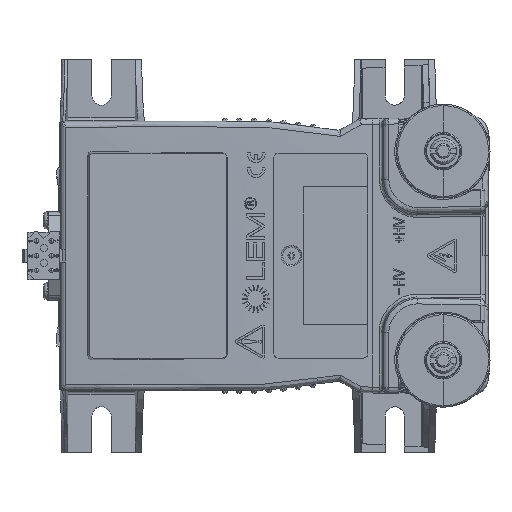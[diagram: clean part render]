
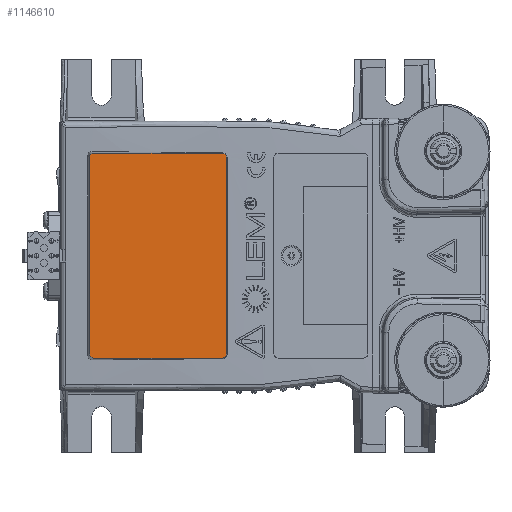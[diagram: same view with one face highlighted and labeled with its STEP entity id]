
A CAD part, top view. The second image highlights one B-rep face of the part: STEP entity #1146610.
In plain terms, the highlighted planar face has unit normal (0, 0, 1).
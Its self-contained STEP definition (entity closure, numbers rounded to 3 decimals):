
#1145860=CARTESIAN_POINT('',(-59.837,-65.738,
64.413));
#1145870=DIRECTION('',(0.,0.,1.));
#1145880=DIRECTION('',(-1.,0.,0.));
#1145890=AXIS2_PLACEMENT_3D('',#1145860,#1145870,#1145880);
#1145900=PLANE('',#1145890);
#1145910=CARTESIAN_POINT('',(38.354,-33.67,
64.413));
#1145920=DIRECTION('',(0.,0.,1.));
#1145930=DIRECTION('',(-0.707,0.707,
0.));
#1145940=AXIS2_PLACEMENT_3D('',#1145910,#1145920,#1145930);
#1145950=ELLIPSE('',#1145940,1.546,1.5);
#1145960=CARTESIAN_POINT('',(38.4,-35.193,
64.413));
#1145970=VERTEX_POINT('',#1145960);
#1145980=CARTESIAN_POINT('',(39.877,-33.716,
64.413));
#1145990=VERTEX_POINT('',#1145980);
#1146000=EDGE_CURVE('',#1145970,#1145990,#1145950,.T.);
#1146010=ORIENTED_EDGE('',*,*,#1146000,.T.);
#1146020=CARTESIAN_POINT('',(49.422,-35.193,
64.413));
#1146030=DIRECTION('',(-1.,0.,0.));
#1146040=VECTOR('',#1146030,1.);
#1146050=LINE('',#1146020,#1146040);
#1146060=CARTESIAN_POINT('',(-5.397,-35.193,
64.413));
#1146070=VERTEX_POINT('',#1146060);
#1146080=EDGE_CURVE('',#1145970,#1146070,#1146050,.T.);
#1146090=ORIENTED_EDGE('',*,*,#1146080,.F.);
#1146100=CARTESIAN_POINT('',(-5.352,-33.67,
64.413));
#1146110=DIRECTION('',(0.,0.,1.));
#1146120=DIRECTION('',(0.707,0.707,
0.));
#1146130=AXIS2_PLACEMENT_3D('',#1146100,#1146110,#1146120);
#1146140=ELLIPSE('',#1146130,1.546,1.5);
#1146150=CARTESIAN_POINT('',(-6.875,-33.716,
64.413));
#1146160=VERTEX_POINT('',#1146150);
#1146170=EDGE_CURVE('',#1146160,#1146070,#1146140,.T.);
#1146180=ORIENTED_EDGE('',*,*,#1146170,.T.);
#1146190=CARTESIAN_POINT('',(-6.875,7.697,
64.413));
#1146200=DIRECTION('',(0.,1.,0.));
#1146210=VECTOR('',#1146200,1.);
#1146220=LINE('',#1146190,#1146210);
#1146230=CARTESIAN_POINT('',(-6.875,33.221,64.413
));
#1146240=VERTEX_POINT('',#1146230);
#1146250=EDGE_CURVE('',#1146160,#1146240,#1146220,.T.);
#1146260=ORIENTED_EDGE('',*,*,#1146250,.F.);
#1146270=CARTESIAN_POINT('',(-5.352,33.175,
64.413));
#1146280=DIRECTION('',(0.,0.,1.));
#1146290=DIRECTION('',(-0.707,0.707,
0.));
#1146300=AXIS2_PLACEMENT_3D('',#1146270,#1146280,#1146290);
#1146310=ELLIPSE('',#1146300,1.546,1.5);
#1146320=CARTESIAN_POINT('',(-5.397,34.698,
64.413));
#1146330=VERTEX_POINT('',#1146320);
#1146340=EDGE_CURVE('',#1146330,#1146240,#1146310,.T.);
#1146350=ORIENTED_EDGE('',*,*,#1146340,.T.);
#1146360=CARTESIAN_POINT('',(49.422,34.698,64.413
));
#1146370=DIRECTION('',(-1.,0.,0.));
#1146380=VECTOR('',#1146370,1.);
#1146390=LINE('',#1146360,#1146380);
#1146400=CARTESIAN_POINT('',(38.4,34.698,64.413
));
#1146410=VERTEX_POINT('',#1146400);
#1146420=EDGE_CURVE('',#1146410,#1146330,#1146390,.T.);
#1146430=ORIENTED_EDGE('',*,*,#1146420,.T.);
#1146440=CARTESIAN_POINT('',(38.354,33.175,64.413
));
#1146450=DIRECTION('',(0.,0.,1.));
#1146460=DIRECTION('',(0.707,0.707,
0.));
#1146470=AXIS2_PLACEMENT_3D('',#1146440,#1146450,#1146460);
#1146480=ELLIPSE('',#1146470,1.546,1.5);
#1146490=CARTESIAN_POINT('',(39.877,33.221,64.413)
);
#1146500=VERTEX_POINT('',#1146490);
#1146510=EDGE_CURVE('',#1146500,#1146410,#1146480,.T.);
#1146520=ORIENTED_EDGE('',*,*,#1146510,.T.);
#1146530=CARTESIAN_POINT('',(39.877,7.697,64.413
));
#1146540=DIRECTION('',(0.,-1.,0.));
#1146550=VECTOR('',#1146540,1.);
#1146560=LINE('',#1146530,#1146550);
#1146570=EDGE_CURVE('',#1146500,#1145990,#1146560,.T.);
#1146580=ORIENTED_EDGE('',*,*,#1146570,.F.);
#1146590=EDGE_LOOP('',(#1146580,#1146520,#1146430,#1146350,#1146260,
#1146180,#1146090,#1146010));
#1146600=FACE_OUTER_BOUND('',#1146590,.T.);
#1146610=ADVANCED_FACE('',(#1146600),#1145900,.T.);
